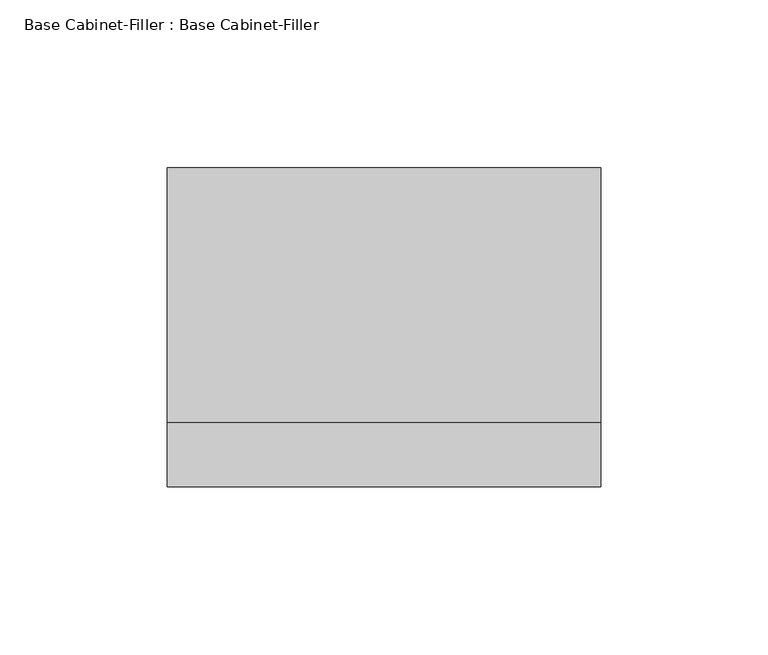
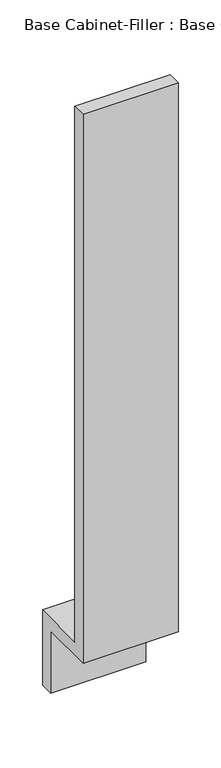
"""IFC4 building model written with IfcOpenShell, lengths in millimetres: furniture geometry, Base Cabinet-Filler : Base Cabinet-Filler."""

from ifc_helpers import new_model, si_unit, frame, origin, place, context, project, spatial, polyline, outline, extrude, source, transform, mapped, element, save


def base_cabinet_filler_base_cabinet_filler_890d7b95(model_context):
    return source(origin(), model_context, "Body", "SweptSolid", [
        extrude(outline(polyline([(-609.6, 88.9), (-609.6, 876.3), (-590.55, 876.3), (-590.55, 107.95), (-514.35, 107.95), (-514.35, 0.0), (-533.4, 0.0), (-533.4, 88.9), (-609.6, 88.9)])), frame((-45.8925649, 0.0, 0.0), z_axis=(1.0, 0.0, 0.0), x_axis=(0.0, 1.0, 0.0)), (0.0, 0.0, 1.0), 129.2605396),
    ])


if __name__ == "__main__":
    model = new_model("IFC4")
    model_context = context("Model", 3, world=origin())
    ifc_project = project(units=[si_unit("LENGTHUNIT", "METRE", prefix="MILLI")], contexts=[model_context])
    site = spatial("IfcSite", under=ifc_project)
    building = spatial("IfcBuilding", under=site)
    placement = place(None, origin())
    base_cabinet_filler_base_cabinet_filler_shape = base_cabinet_filler_base_cabinet_filler_890d7b95(model_context)
    element("IfcFurniture", 1, ObjectType="Base Cabinet-Filler : Base Cabinet-Filler", at=placement, inside=building, context=model_context, shape_type="MappedRepresentation", body=[
        mapped(base_cabinet_filler_base_cabinet_filler_shape, transform((0.0, 0.0, 0.0), x_axis=(1.0, 0.0, 0.0), y_axis=(0.0, 1.0, 0.0), z_axis=(0.0, 0.0, 1.0))),
    ])
    save(model, "model.ifc")
